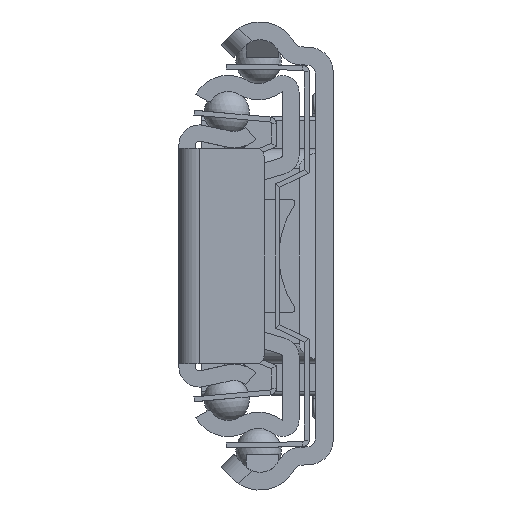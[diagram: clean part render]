
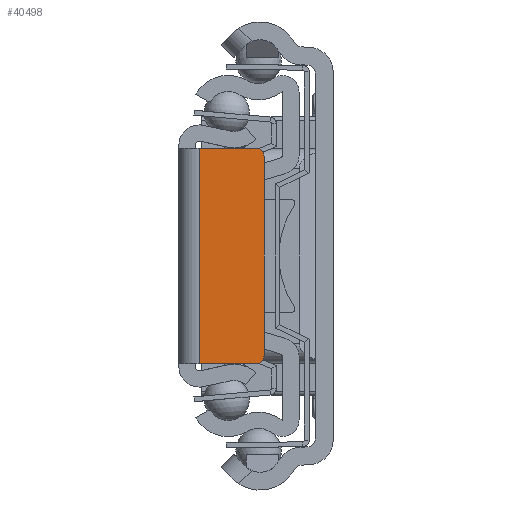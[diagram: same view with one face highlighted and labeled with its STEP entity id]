
A CAD part, left-side view. The second image highlights one B-rep face of the part: STEP entity #40498.
In plain terms, the highlighted planar face has unit normal (-1, 0, 0).
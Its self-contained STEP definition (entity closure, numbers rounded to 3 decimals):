
#37290=DIRECTION('',(0.,-1.,0.));
#37291=VECTOR('',#37290,7.);
#37292=CARTESIAN_POINT('',(-0.5,-2.,-13.25));
#37293=LINE('',#37292,#37291);
#37294=CARTESIAN_POINT('',(-0.5,-9.,12.25));
#37295=DIRECTION('',(-1.,0.,0.));
#37296=DIRECTION('',(0.,-1.,0.));
#37297=AXIS2_PLACEMENT_3D('',#37294,#37295,#37296);
#37299=CARTESIAN_POINT('',(-0.5,-9.,-12.25));
#37300=DIRECTION('',(-1.,0.,0.));
#37301=DIRECTION('',(0.,0.,-1.));
#37302=AXIS2_PLACEMENT_3D('',#37299,#37300,#37301);
#37304=DIRECTION('',(0.,0.,1.));
#37305=VECTOR('',#37304,26.5);
#37306=CARTESIAN_POINT('',(-0.5,-2.,-13.25));
#37307=LINE('',#37306,#37305);
#37326=DIRECTION('',(0.,-1.,0.));
#37327=VECTOR('',#37326,7.);
#37328=CARTESIAN_POINT('',(-0.5,-2.,13.25));
#37329=LINE('',#37328,#37327);
#37360=DIRECTION('',(0.,0.,1.));
#37361=VECTOR('',#37360,24.5);
#37362=CARTESIAN_POINT('',(-0.5,-10.,-12.25));
#37363=LINE('',#37362,#37361);
#38592=CARTESIAN_POINT('',(-0.5,-2.,-13.25));
#38593=CARTESIAN_POINT('',(-0.5,-2.,13.25));
#38594=VERTEX_POINT('',#38592);
#38595=VERTEX_POINT('',#38593);
#38612=CARTESIAN_POINT('',(-0.5,-10.,12.25));
#38613=VERTEX_POINT('',#38612);
#38614=CARTESIAN_POINT('',(-0.5,-9.,13.25));
#38615=VERTEX_POINT('',#38614);
#38616=CARTESIAN_POINT('',(-0.5,-9.,-13.25));
#38617=CARTESIAN_POINT('',(-0.5,-10.,-12.25));
#38618=VERTEX_POINT('',#38616);
#38619=VERTEX_POINT('',#38617);
#40481=CARTESIAN_POINT('',(-0.5,-2.,-13.25));
#40482=DIRECTION('',(-1.,0.,0.));
#40483=DIRECTION('',(0.,-1.,0.));
#40484=AXIS2_PLACEMENT_3D('',#40481,#40482,#40483);
#40485=PLANE('',#40484);
#40487=ORIENTED_EDGE('',*,*,#40486,.F.);
#40489=ORIENTED_EDGE('',*,*,#40488,.F.);
#40490=ORIENTED_EDGE('',*,*,#40471,.F.);
#40491=ORIENTED_EDGE('',*,*,#40461,.F.);
#40493=ORIENTED_EDGE('',*,*,#40492,.T.);
#40495=ORIENTED_EDGE('',*,*,#40494,.T.);
#40496=EDGE_LOOP('',(#40487,#40489,#40490,#40491,#40493,#40495));
#40497=FACE_OUTER_BOUND('',#40496,.F.);
#37298=CIRCLE('',#37297,1.);
#37303=CIRCLE('',#37302,1.);
#40461=EDGE_CURVE('',#38594,#38618,#37293,.T.);
#40471=EDGE_CURVE('',#38618,#38619,#37303,.T.);
#40486=EDGE_CURVE('',#38613,#38615,#37298,.T.);
#40488=EDGE_CURVE('',#38619,#38613,#37363,.T.);
#40492=EDGE_CURVE('',#38594,#38595,#37307,.T.);
#40494=EDGE_CURVE('',#38595,#38615,#37329,.T.);
#40498=ADVANCED_FACE('',(#40497),#40485,.T.);
